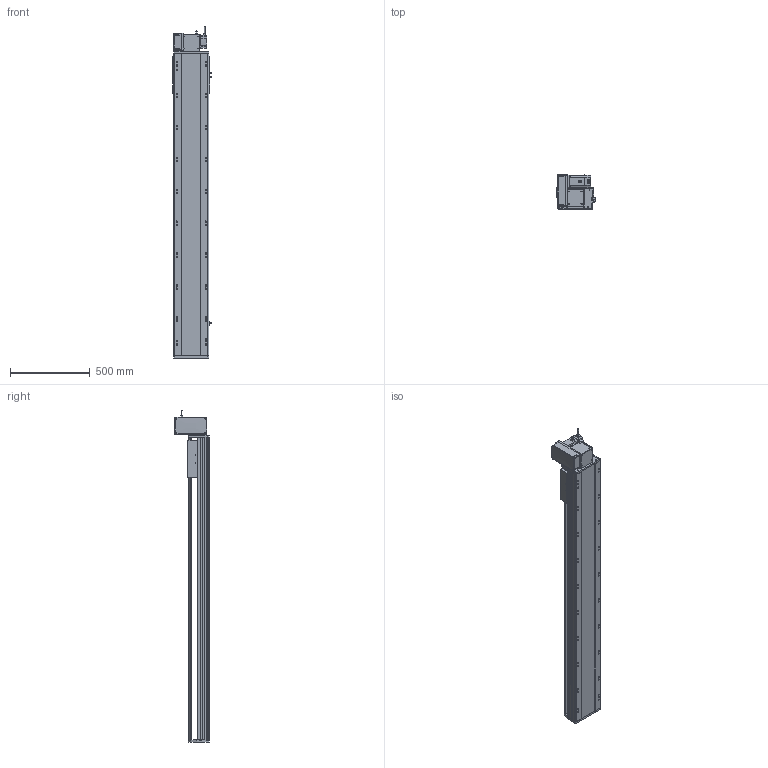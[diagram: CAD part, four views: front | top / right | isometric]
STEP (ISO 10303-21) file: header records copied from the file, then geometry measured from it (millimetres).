
FILE_DESCRIPTION (( 'STEP AP214' ), '1' );
FILE_NAME ('RTB22S-XX-1550-LW-M75-C4.STEP', '2025-12-12T05:58:10', ( '' ), ( '' ), 'SwSTEP 2.0', 'SolidWorks 2018', '' );
FILE_SCHEMA (( 'AUTOMOTIVE_DESIGN' ));
Length unit declared in the file: millimetre
Products named in the file (14): 750W萇儂^RTB22S-XX-XX-LW-M75-C4; RTB22S-L-011菁釱^RTB22S-XX-XX-LW-M75-C4; RTB22S-GY-001耜裔^RTB22S-XX-XX-LW-M75-C4; RTB22S-GY-014--々湍釱^RTB22S-LW-々湍釱蚾饜_RTB22S-XX-XX-LW-M75-C4; OMRON EE-SX672 传感器^RTB22S-XX-XX-LW-M75-C4; RTB22S-GY-017P^RTB22S-LW-々湍釱蚾饜_RTB22S-XX-XX-LW-M75-C4; RTB22S-L-004賑釱^RTB22S-XX-XX-LW-M75-C4; RTB22S-GY-005P^RTB22S-LW-々湍釱蚾饜_RTB22S-XX-XX-LW-M75-C4; RTB22S-XX-1550-LW-M75-C4; RTB22S-GY-008-M75--萇儂啣^RTB22S-LW-々湍釱蚾饜_RTB22S-XX-XX-LW-M75-C4; RTB22S-GY-007奻裔^RTB22S-XX-XX-LW-M75-C4; RTH22-GY-013外置感应片^RTB22S-XX-XX-LW-M75-C4; RTB22S-GY-018P^RTB22S-LW-々湍釱蚾饜_RTB22S-XX-XX-LW-M75-C4; RTB22S-LW-々湍釱蚾饜^RTB22S-XX-XX-LW-M75-C4
Assembly tree (16 placements, depth 3):
  RTB22S-XX-1550-LW-M75-C4
    RTB22S-L-011菁釱^RTB22S-XX-XX-LW-M75-C4
    RTB22S-GY-001耜裔^RTB22S-XX-XX-LW-M75-C4
    750W萇儂^RTB22S-XX-XX-LW-M75-C4
    RTB22S-GY-007奻裔^RTB22S-XX-XX-LW-M75-C4
    RTB22S-L-004賑釱^RTB22S-XX-XX-LW-M75-C4
    RTH22-GY-013外置感应片^RTB22S-XX-XX-LW-M75-C4
    OMRON EE-SX672 传感器^RTB22S-XX-XX-LW-M75-C4  x3
    RTB22S-LW-々湍釱蚾饜^RTB22S-XX-XX-LW-M75-C4
      RTB22S-GY-014--々湍釱^RTB22S-LW-々湍釱蚾饜_RTB22S-XX-XX-LW-M75-C4
      RTB22S-GY-017P^RTB22S-LW-々湍釱蚾饜_RTB22S-XX-XX-LW-M75-C4  x2
      RTB22S-GY-005P^RTB22S-LW-々湍釱蚾饜_RTB22S-XX-XX-LW-M75-C4
      RTB22S-GY-008-M75--萇儂啣^RTB22S-LW-々湍釱蚾饜_RTB22S-XX-XX-LW-M75-C4
      RTB22S-GY-018P^RTB22S-LW-々湍釱蚾饜_RTB22S-XX-XX-LW-M75-C4
Bounding box: 238.5 x 215.5 x 2082.2 mm (x, y, z)
Volume: 27697924.9 mm3; surface area: 2856686.2 mm2
Topology: 15 solids, 15 shells, 2019 faces, 5486 edges, 3512 vertices
Faces by surface type: plane 919, cylinder 646, bspline 296, cone 146, sphere 8, torus 4
Entity records: 54084 total; most frequent: CARTESIAN_POINT 15468, ORIENTED_EDGE 7744, DIRECTION 7486, EDGE_CURVE 3872, AXIS2_PLACEMENT_3D 2654, VERTEX_POINT 2516, LINE 2178, VECTOR 2178
